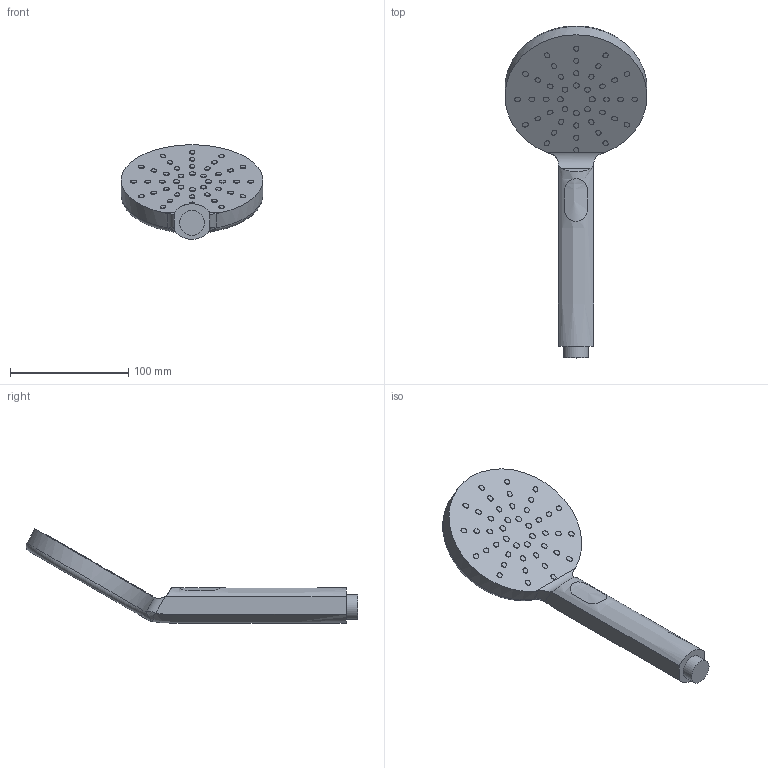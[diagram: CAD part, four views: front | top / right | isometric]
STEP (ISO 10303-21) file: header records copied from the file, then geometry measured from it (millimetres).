
FILE_DESCRIPTION(/* description */ ('ROUND BLACK Słuchawka 3-funkcyjna'),/* implementation_level */ '2;1');
FILE_NAME(/* name */ 'C:\Nextcloud\02_biblioteki_cad\Valvex\Projekt\PROJECTS\Eksport\ETAP 4\2445770\2445770.stp',/* time_stamp */ '2021-08-09T10:49:23+02:00',/* author */ ('Cadventure'),/* organization */ (''),/* preprocessor_version */ 'ST-DEVELOPER v18.1',/* originating_system */ 'Autodesk Inventor 2020',/* authorisation */ '');
FILE_SCHEMA (('AUTOMOTIVE_DESIGN { 1 0 10303 214 3 1 1 }'));
Length unit declared in the file: millimetre
Products named in the file (3): 2445770; 2445750; 2455700_dysza_sluchawka
Assembly tree (2 placements, depth 2):
  2445770
    2445750
    2455700_dysza_sluchawka
Bounding box: 119.93 x 280.48 x 79.88 mm (x, y, z)
Volume: 340130.9 mm3; surface area: 48357.5 mm2
Topology: 45 solids, 45 shells, 258 faces, 524 edges, 358 vertices
Faces by surface type: plane 167, cylinder 85, bspline 5, torus 1
Full cylindrical faces by diameter (mm): 5 x8, 21 x1
Entity records: 7790 total; most frequent: CARTESIAN_POINT 1835, DIRECTION 1195, ORIENTED_EDGE 1048, EDGE_CURVE 524, AXIS2_PLACEMENT_3D 445, VERTEX_POINT 358, LINE 305, VECTOR 305
